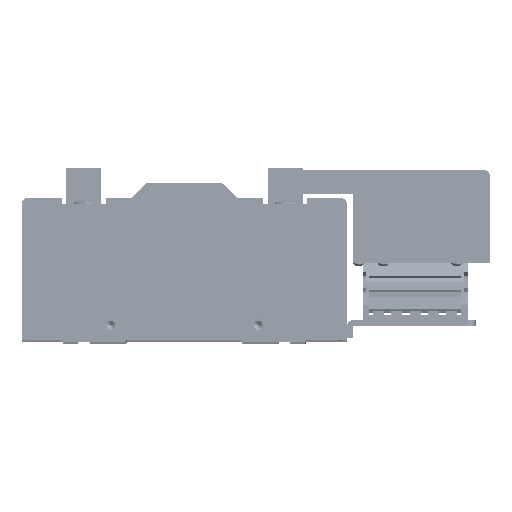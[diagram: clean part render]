
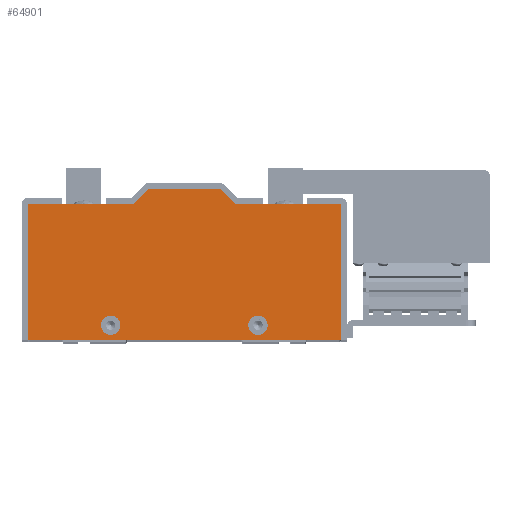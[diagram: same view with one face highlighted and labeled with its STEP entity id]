
A CAD part, top view. The second image highlights one B-rep face of the part: STEP entity #64901.
In plain terms, the highlighted planar face has unit normal (0, 0, 1).
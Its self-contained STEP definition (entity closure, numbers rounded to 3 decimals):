
#12134 = DIRECTION ( 'NONE',  ( 0., 1., 0. ) ) ;
#12508 = DIRECTION ( 'NONE',  ( -1., 0., 0. ) ) ;
#12509 = VECTOR ( 'NONE', #12508, 1000. ) ;
#12511 = CARTESIAN_POINT ( 'NONE',  ( -85., 37., 9.525 ) ) ;
#12513 = LINE ( 'NONE', #12511, #12509 ) ;
#12582 = DIRECTION ( 'NONE',  ( 1., 0., 0. ) ) ;
#12586 = DIRECTION ( 'NONE',  ( 0., 0., 1. ) ) ;
#12587 = AXIS2_PLACEMENT_3D ( 'NONE', #12605, #12586, #12582 ) ;
#12589 = CIRCLE ( 'NONE', #12587, 5.25 ) ;
#12605 = CARTESIAN_POINT ( 'NONE',  ( 40., -29., 9.525 ) ) ;
#12682 = DIRECTION ( 'NONE',  ( 1., 0., 0. ) ) ;
#12684 = DIRECTION ( 'NONE',  ( 0., 0., 1. ) ) ;
#12685 = CARTESIAN_POINT ( 'NONE',  ( -40., -29., 9.525 ) ) ;
#12687 = AXIS2_PLACEMENT_3D ( 'NONE', #12685, #12684, #12682 ) ;
#12689 = CIRCLE ( 'NONE', #12687, 5.25 ) ;
#12696 = DIRECTION ( 'NONE',  ( 1., 0., 0. ) ) ;
#12699 = DIRECTION ( 'NONE',  ( 0., 0., 1. ) ) ;
#12703 = CARTESIAN_POINT ( 'NONE',  ( -85., 37., 9.525 ) ) ;
#12705 = AXIS2_PLACEMENT_3D ( 'NONE', #12703, #12699, #12696 ) ;
#12706 = PLANE ( 'NONE',  #12705 ) ;
#12712 = FACE_OUTER_BOUND ( 'NONE', #64882, .T. ) ;
#12715 = FACE_BOUND ( 'NONE', #64875, .T. ) ;
#12717 = FACE_BOUND ( 'NONE', #64902, .T. ) ;
#12828 = VECTOR ( 'NONE', #12134, 1000. ) ;
#12829 = CARTESIAN_POINT ( 'NONE',  ( 85., 37., 9.525 ) ) ;
#12830 = LINE ( 'NONE', #12829, #12828 ) ;
#12835 = CARTESIAN_POINT ( 'NONE',  ( 85., 37., 9.525 ) ) ;
#25678 = CARTESIAN_POINT ( 'NONE',  ( -45.25, -29., 9.525 ) ) ;
#63829 = VERTEX_POINT ( 'NONE', #25678 ) ;
#63983 = VERTEX_POINT ( 'NONE', #67648 ) ;
#64018 = VERTEX_POINT ( 'NONE', #67775 ) ;
#64040 = EDGE_CURVE ( 'NONE', #63829, #64041, #67848, .T. ) ;
#64041 = VERTEX_POINT ( 'NONE', #67838 ) ;
#64058 = VERTEX_POINT ( 'NONE', #69076 ) ;
#64061 = EDGE_CURVE ( 'NONE', #64058, #63983, #69071, .T. ) ;
#64076 = EDGE_CURVE ( 'NONE', #64077, #65056, #69020, .T. ) ;
#64077 = VERTEX_POINT ( 'NONE', #69149 ) ;
#64155 = VERTEX_POINT ( 'NONE', #69449 ) ;
#64157 = EDGE_CURVE ( 'NONE', #64018, #64155, #69435, .T. ) ;
#64860 = EDGE_CURVE ( 'NONE', #63983, #64077, #12513, .T. ) ;
#64874 = ORIENTED_EDGE ( 'NONE', *, *, #64040, .F. ) ;
#64875 = EDGE_LOOP ( 'NONE', ( #64876, #64881 ) ) ;
#64876 = ORIENTED_EDGE ( 'NONE', *, *, #64879, .F. ) ;
#64879 = EDGE_CURVE ( 'NONE', #64155, #64018, #12589, .T. ) ;
#64881 = ORIENTED_EDGE ( 'NONE', *, *, #64157, .F. ) ;
#64882 = EDGE_LOOP ( 'NONE', ( #64883, #64884, #64886, #64888, #64914, #64915, #64917, #64918 ) ) ;
#64883 = ORIENTED_EDGE ( 'NONE', *, *, #64076, .T. ) ;
#64884 = ORIENTED_EDGE ( 'NONE', *, *, #65099, .T. ) ;
#64886 = ORIENTED_EDGE ( 'NONE', *, *, #64949, .T. ) ;
#64888 = ORIENTED_EDGE ( 'NONE', *, *, #64985, .T. ) ;
#64901 = ADVANCED_FACE ( 'NONE', ( #12717, #12715, #12712 ), #12706, .T. ) ;
#64902 = EDGE_LOOP ( 'NONE', ( #64903, #64874 ) ) ;
#64903 = ORIENTED_EDGE ( 'NONE', *, *, #64904, .F. ) ;
#64904 = EDGE_CURVE ( 'NONE', #64041, #63829, #12689, .T. ) ;
#64914 = ORIENTED_EDGE ( 'NONE', *, *, #65037, .T. ) ;
#64915 = ORIENTED_EDGE ( 'NONE', *, *, #65101, .T. ) ;
#64917 = ORIENTED_EDGE ( 'NONE', *, *, #64061, .T. ) ;
#64918 = ORIENTED_EDGE ( 'NONE', *, *, #64860, .T. ) ;
#64944 = VERTEX_POINT ( 'NONE', #12835 ) ;
#64949 = EDGE_CURVE ( 'NONE', #65091, #64944, #12830, .T. ) ;
#64977 = VERTEX_POINT ( 'NONE', #112504 ) ;
#64985 = EDGE_CURVE ( 'NONE', #64944, #64977, #112494, .T. ) ;
#65027 = VERTEX_POINT ( 'NONE', #112718 ) ;
#65037 = EDGE_CURVE ( 'NONE', #64977, #65027, #112690, .T. ) ;
#65056 = VERTEX_POINT ( 'NONE', #112841 ) ;
#65091 = VERTEX_POINT ( 'NONE', #112891 ) ;
#65099 = EDGE_CURVE ( 'NONE', #65056, #65091, #112871, .T. ) ;
#65101 = EDGE_CURVE ( 'NONE', #65027, #64058, #112864, .T. ) ;
#67648 = CARTESIAN_POINT ( 'NONE',  ( -27.5, 37., 9.525 ) ) ;
#67775 = CARTESIAN_POINT ( 'NONE',  ( 34.75, -29., 9.525 ) ) ;
#67838 = CARTESIAN_POINT ( 'NONE',  ( -34.75, -29., 9.525 ) ) ;
#67839 = DIRECTION ( 'NONE',  ( 1., 0., 0. ) ) ;
#67840 = DIRECTION ( 'NONE',  ( 0., 0., 1. ) ) ;
#67844 = CARTESIAN_POINT ( 'NONE',  ( -40., -29., 9.525 ) ) ;
#67846 = AXIS2_PLACEMENT_3D ( 'NONE', #67844, #67840, #67839 ) ;
#67848 = CIRCLE ( 'NONE', #67846, 5.25 ) ;
#69016 = VECTOR ( 'NONE', #69153, 1000. ) ;
#69018 = CARTESIAN_POINT ( 'NONE',  ( -85., 37., 9.525 ) ) ;
#69020 = LINE ( 'NONE', #69018, #69016 ) ;
#69066 = DIRECTION ( 'NONE',  ( -0.707, -0.707, 0. ) ) ;
#69068 = VECTOR ( 'NONE', #69066, 1000. ) ;
#69069 = CARTESIAN_POINT ( 'NONE',  ( -27.5, 37., 9.525 ) ) ;
#69071 = LINE ( 'NONE', #69069, #69068 ) ;
#69076 = CARTESIAN_POINT ( 'NONE',  ( -19.5, 45., 9.525 ) ) ;
#69149 = CARTESIAN_POINT ( 'NONE',  ( -85., 37., 9.525 ) ) ;
#69153 = DIRECTION ( 'NONE',  ( 0., -1., 0. ) ) ;
#69426 = DIRECTION ( 'NONE',  ( 1., 0., 0. ) ) ;
#69428 = DIRECTION ( 'NONE',  ( 0., 0., 1. ) ) ;
#69432 = CARTESIAN_POINT ( 'NONE',  ( 40., -29., 9.525 ) ) ;
#69433 = AXIS2_PLACEMENT_3D ( 'NONE', #69432, #69428, #69426 ) ;
#69435 = CIRCLE ( 'NONE', #69433, 5.25 ) ;
#69449 = CARTESIAN_POINT ( 'NONE',  ( 45.25, -29., 9.525 ) ) ;
#111571 = VECTOR ( 'NONE', #114229, 1000. ) ;
#112489 = DIRECTION ( 'NONE',  ( -1., 0., 0. ) ) ;
#112491 = VECTOR ( 'NONE', #112489, 1000. ) ;
#112493 = CARTESIAN_POINT ( 'NONE',  ( 27.5, 37., 9.525 ) ) ;
#112494 = LINE ( 'NONE', #112493, #112491 ) ;
#112504 = CARTESIAN_POINT ( 'NONE',  ( 27.5, 37., 9.525 ) ) ;
#112686 = DIRECTION ( 'NONE',  ( -0.707, 0.707, 0. ) ) ;
#112687 = VECTOR ( 'NONE', #112686, 1000. ) ;
#112688 = CARTESIAN_POINT ( 'NONE',  ( 19.5, 45., 9.525 ) ) ;
#112690 = LINE ( 'NONE', #112688, #112687 ) ;
#112718 = CARTESIAN_POINT ( 'NONE',  ( 19.5, 45., 9.525 ) ) ;
#112841 = CARTESIAN_POINT ( 'NONE',  ( -85., -37., 9.525 ) ) ;
#112862 = CARTESIAN_POINT ( 'NONE',  ( -19.5, 45., 9.525 ) ) ;
#112864 = LINE ( 'NONE', #112862, #111571 ) ;
#112866 = DIRECTION ( 'NONE',  ( 1., 0., 0. ) ) ;
#112867 = VECTOR ( 'NONE', #112866, 1000. ) ;
#112869 = CARTESIAN_POINT ( 'NONE',  ( -85., -37., 9.525 ) ) ;
#112871 = LINE ( 'NONE', #112869, #112867 ) ;
#112891 = CARTESIAN_POINT ( 'NONE',  ( 85., -37., 9.525 ) ) ;
#114229 = DIRECTION ( 'NONE',  ( -1., 0., 0. ) ) ;
